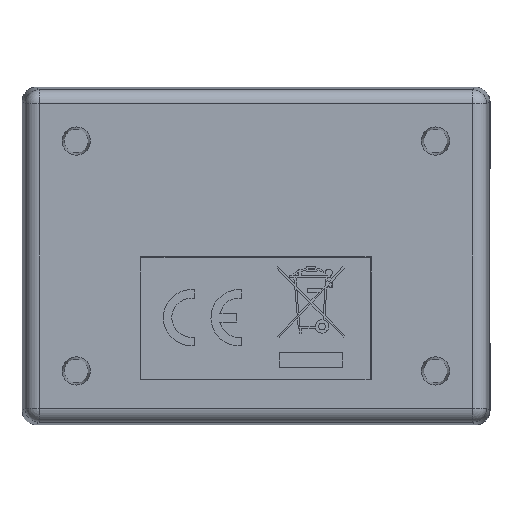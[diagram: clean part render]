
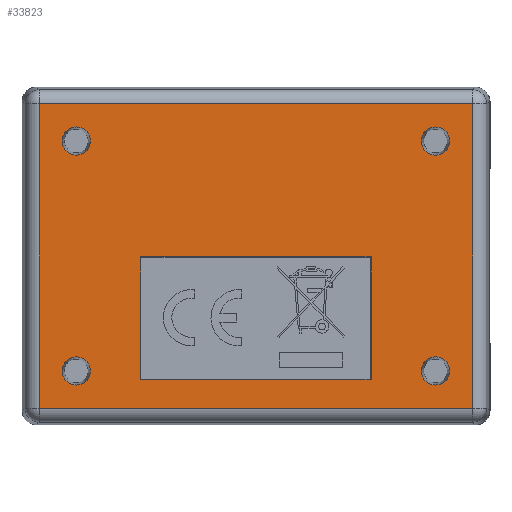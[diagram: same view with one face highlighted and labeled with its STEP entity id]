
A CAD part, front view. The second image highlights one B-rep face of the part: STEP entity #33823.
In plain terms, the highlighted planar face has unit normal (0, -1, 0) as drawn and (0, 0, -1) by its records, which use the part's own axes.
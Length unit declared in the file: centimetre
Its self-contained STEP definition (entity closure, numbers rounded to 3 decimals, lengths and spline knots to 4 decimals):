
#13876=CIRCLE('',#34995,0.1249);
#13877=CIRCLE('',#34996,0.1249);
#13878=CIRCLE('',#34997,0.1249);
#13879=CIRCLE('',#34998,0.1249);
#15158=VERTEX_POINT('',#43132);
#15159=VERTEX_POINT('',#43134);
#15161=VERTEX_POINT('',#43140);
#15163=VERTEX_POINT('',#43146);
#15284=VERTEX_POINT('',#44218);
#15285=VERTEX_POINT('',#44220);
#15286=VERTEX_POINT('',#44222);
#15287=VERTEX_POINT('',#44224);
#15288=VERTEX_POINT('',#44226);
#15289=VERTEX_POINT('',#44227);
#15290=VERTEX_POINT('',#44229);
#15291=VERTEX_POINT('',#44231);
#17328=VECTOR('',#37352,1.);
#17331=VECTOR('',#37356,1.);
#17334=VECTOR('',#37360,1.);
#17337=VECTOR('',#37364,1.);
#17498=VECTOR('',#37597,1.);
#17499=VECTOR('',#37598,1.);
#17500=VECTOR('',#37599,1.);
#17501=VECTOR('',#37600,1.);
#19714=LINE('',#43133,#17328);
#19717=LINE('',#43139,#17331);
#19720=LINE('',#43145,#17334);
#19723=LINE('',#43150,#17337);
#19884=LINE('',#44225,#17498);
#19885=LINE('',#44228,#17499);
#19886=LINE('',#44230,#17500);
#19887=LINE('',#44232,#17501);
#22189=EDGE_CURVE('',#15159,#15158,#19714,.F.);
#22192=EDGE_CURVE('',#15161,#15159,#19717,.F.);
#22195=EDGE_CURVE('',#15163,#15161,#19720,.F.);
#22198=EDGE_CURVE('',#15158,#15163,#19723,.F.);
#22379=EDGE_CURVE('',#15284,#15284,#13876,.F.);
#22380=EDGE_CURVE('',#15285,#15285,#13877,.F.);
#22381=EDGE_CURVE('',#15286,#15286,#13878,.F.);
#22382=EDGE_CURVE('',#15287,#15287,#13879,.F.);
#22383=EDGE_CURVE('',#15288,#15289,#19884,.T.);
#22384=EDGE_CURVE('',#15290,#15288,#19885,.T.);
#22385=EDGE_CURVE('',#15291,#15290,#19886,.T.);
#22386=EDGE_CURVE('',#15289,#15291,#19887,.T.);
#26300=ORIENTED_EDGE('',*,*,#22379,.T.);
#26301=ORIENTED_EDGE('',*,*,#22380,.T.);
#26302=ORIENTED_EDGE('',*,*,#22381,.T.);
#26303=ORIENTED_EDGE('',*,*,#22382,.T.);
#26304=ORIENTED_EDGE('',*,*,#22383,.F.);
#26305=ORIENTED_EDGE('',*,*,#22384,.F.);
#26306=ORIENTED_EDGE('',*,*,#22385,.F.);
#26307=ORIENTED_EDGE('',*,*,#22386,.F.);
#26308=ORIENTED_EDGE('',*,*,#22189,.T.);
#26309=ORIENTED_EDGE('',*,*,#22198,.T.);
#26310=ORIENTED_EDGE('',*,*,#22195,.T.);
#26311=ORIENTED_EDGE('',*,*,#22192,.T.);
#31285=EDGE_LOOP('',(#26300));
#31286=EDGE_LOOP('',(#26301));
#31287=EDGE_LOOP('',(#26302));
#31288=EDGE_LOOP('',(#26303));
#31289=EDGE_LOOP('',(#26304,#26305,#26306,#26307));
#31290=EDGE_LOOP('',(#26308,#26309,#26310,#26311));
#32565=FACE_BOUND('',#31285,.T.);
#32566=FACE_BOUND('',#31286,.T.);
#32567=FACE_BOUND('',#31287,.T.);
#32568=FACE_BOUND('',#31288,.T.);
#32569=FACE_BOUND('',#31289,.T.);
#32570=FACE_BOUND('',#31290,.T.);
#33823=ADVANCED_FACE('',(#32565,#32566,#32567,#32568,#32569,#32570),#52012,
 .F.);
#34994=AXIS2_PLACEMENT_3D('',#44216,#37588,$);
#34995=AXIS2_PLACEMENT_3D('',#44217,#37589,#37590);
#34996=AXIS2_PLACEMENT_3D('',#44219,#37591,#37592);
#34997=AXIS2_PLACEMENT_3D('',#44221,#37593,#37594);
#34998=AXIS2_PLACEMENT_3D('',#44223,#37595,#37596);
#37352=DIRECTION('',(-1.,0.,0.));
#37356=DIRECTION('',(0.,1.,0.));
#37360=DIRECTION('',(1.,0.,0.));
#37364=DIRECTION('',(0.,-1.,0.));
#37588=DIRECTION('',(0.,0.,1.));
#37589=DIRECTION('',(0.,0.,-1.));
#37590=DIRECTION('',(-0.125,0.,0.));
#37591=DIRECTION('',(0.,0.,-1.));
#37592=DIRECTION('',(-0.125,0.,0.));
#37593=DIRECTION('',(0.,0.,-1.));
#37594=DIRECTION('',(-0.125,0.,0.));
#37595=DIRECTION('',(0.,0.,-1.));
#37596=DIRECTION('',(-0.125,0.,0.));
#37597=DIRECTION('',(-1.,0.,0.));
#37598=DIRECTION('',(0.,1.,0.));
#37599=DIRECTION('',(1.,0.,0.));
#37600=DIRECTION('',(0.,-1.,0.));
#43132=CARTESIAN_POINT('',(1.091,-1.0176,-0.0032));
#43133=CARTESIAN_POINT('',(0.1374,-1.0176,-0.0032));
#43134=CARTESIAN_POINT('',(0.0083,-1.0176,-0.0032));
#43139=CARTESIAN_POINT('',(0.0083,0.,-0.0032));
#43140=CARTESIAN_POINT('',(0.0083,1.0176,-0.0032));
#43145=CARTESIAN_POINT('',(0.1374,1.0176,-0.0032));
#43146=CARTESIAN_POINT('',(1.091,1.0176,-0.0032));
#43150=CARTESIAN_POINT('',(1.091,0.,-0.0032));
#44216=CARTESIAN_POINT('',(0.,0.,-0.0032));
#44217=CARTESIAN_POINT('',(1.016,1.5875,-0.0032));
#44218=CARTESIAN_POINT('',(1.1409,1.5875,-0.0032));
#44219=CARTESIAN_POINT('',(1.016,-1.5875,-0.0032));
#44220=CARTESIAN_POINT('',(1.1409,-1.5875,-0.0032));
#44221=CARTESIAN_POINT('',(-1.016,-1.5875,-0.0032));
#44222=CARTESIAN_POINT('',(-0.8911,-1.5875,-0.0032));
#44223=CARTESIAN_POINT('',(-1.016,1.5875,-0.0032));
#44224=CARTESIAN_POINT('',(-0.8911,1.5875,-0.0032));
#44225=CARTESIAN_POINT('',(0.,1.9149,-0.0032));
#44226=CARTESIAN_POINT('',(1.3434,1.9149,-0.0032));
#44227=CARTESIAN_POINT('',(-1.3434,1.9149,-0.0032));
#44228=CARTESIAN_POINT('',(1.3434,0.,-0.0032));
#44229=CARTESIAN_POINT('',(1.3434,-1.9149,-0.0032));
#44230=CARTESIAN_POINT('',(0.,-1.9149,-0.0032));
#44231=CARTESIAN_POINT('',(-1.3434,-1.9149,-0.0032));
#44232=CARTESIAN_POINT('',(-1.3434,0.,-0.0032));
#52012=PLANE('',#34994);
